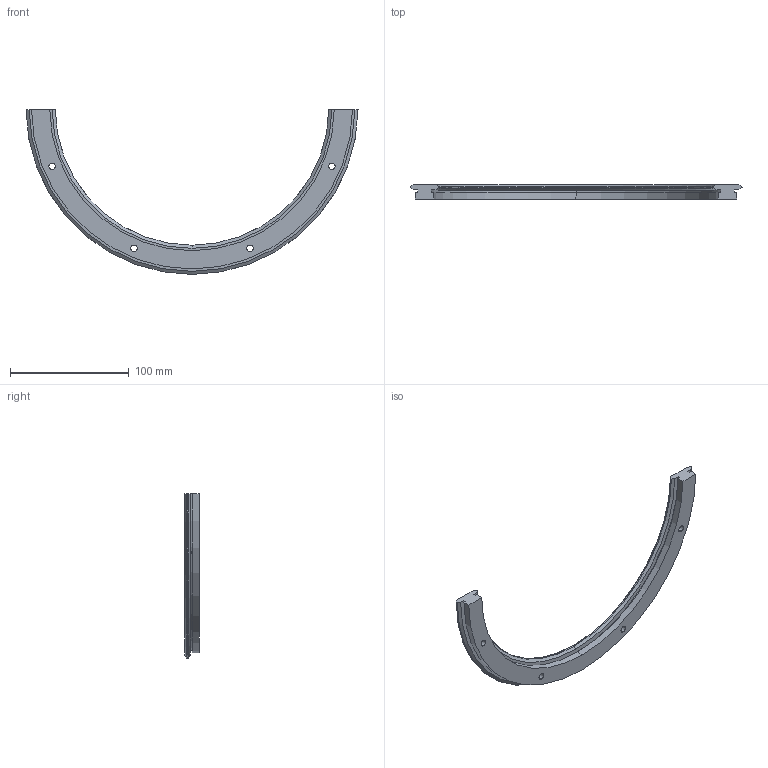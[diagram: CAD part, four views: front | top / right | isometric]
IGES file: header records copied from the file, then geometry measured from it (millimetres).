
Start section: 3D InterOp IGES (v. 2020 1.0.1), Spatial Corp. Copyright (c) 1999-2017.
Global section: file name: r25_255_r180.igs; native system: Spatial Corp.; preprocessor: 3D InterOp ACIS/IGES; author: TraceParts; organization: TraceParts S.A.; date: 20220624.065954; units: millimetre
Bounding box: 279.6 x 12.25 x 138.81 mm (x, y, z)
Surface area: 31792 mm2 (no closed solid volume)
Topology: 0 solids, 0 shells, 52 faces, 264 edges, 264 vertices
Faces by surface type: revolution 40, extrusion 12
